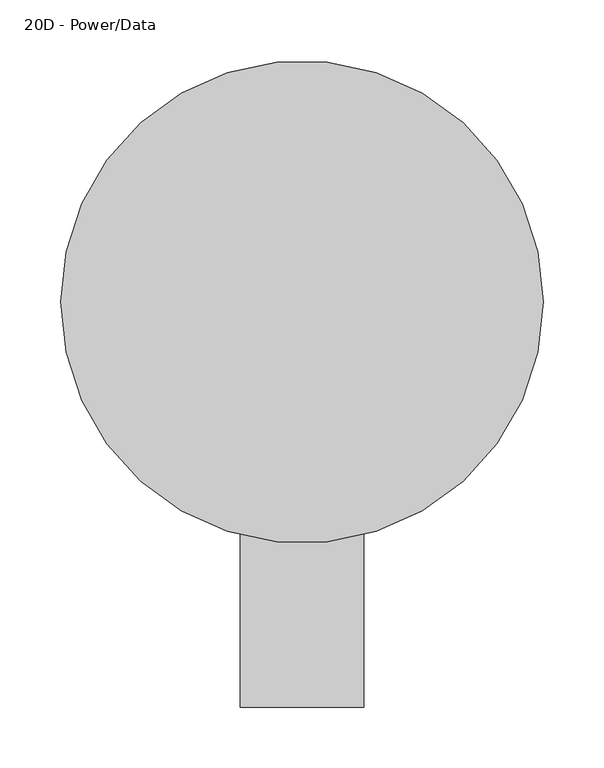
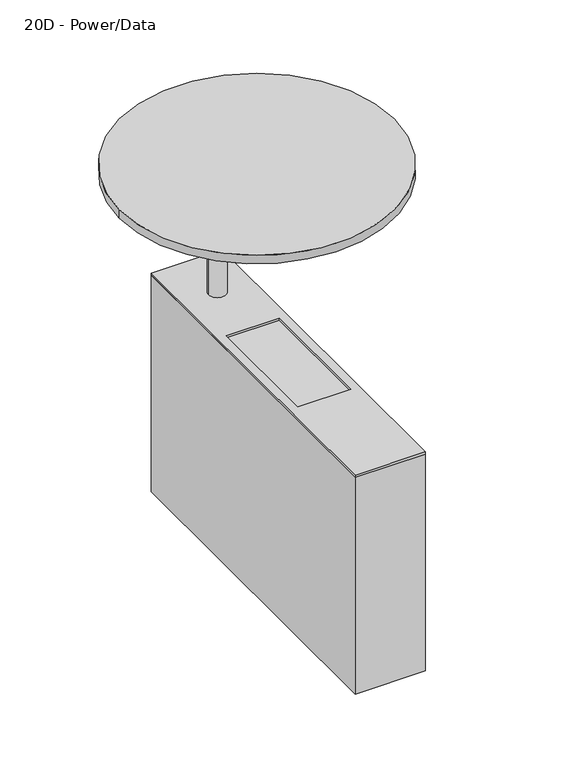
"""IFC4 building model written with IfcOpenShell, lengths in millimetres: furniture geometry, Coalesse_AM_Table_Occasional_Await_Connector : 20D - Power/Data."""

from ifc_helpers import new_model, si_unit, point, frame, frame_2d, origin, place, context, project, spatial, polyline, circle_curve, trimmed, segment, composite_curve, outline, extrude, source, transform, mapped, element, save
from ifc_brep_helpers import plane_surface, cylinder_surface, advanced_brep


def furniture_20d_power_data_efb1d3a4(model_context):
    return source(origin(), model_context, "Body", "SolidModel", [
        extrude(outline(composite_curve([segment(trimmed(circle_curve(frame_2d((-663.917922, 15.7143355)), 198.12), [point((-862.037922, 15.7143355))], [point((-465.797922, 15.7143355))], False, "CARTESIAN"), True, "CONTINUOUS"), segment(trimmed(circle_curve(frame_2d((-663.917922, 15.7143355)), 198.12), [point((-465.797922, 15.7143355))], [point((-862.037922, 15.7143355))], False, "CARTESIAN"), True, "CONTINUOUS")], self_intersect=False)), frame((0.0, 0.0, 631.825), z_axis=(0.0, 0.0, 1.0), x_axis=(1.0, 0.0, 0.0)), (0.0, 0.0, 1.0), 12.7),
        advanced_brep(
        [(-625.817922, 114.6403236, 631.825), (-702.017922, 114.6403236, 631.825), (-663.917922, 114.6403236, 631.825), (-625.817922, 114.6403236, 623.8875), (-702.017922, 114.6403236, 623.8875), (-651.217922, 114.6403236, 623.8875), (-676.617922, 114.6403236, 623.8875), (-651.217922, 114.6403236, 390.525), (-676.617922, 114.6403236, 390.525), (-663.917922, 114.6403236, 390.525)],
        [
            (0, 1, circle_curve(frame((-663.917922, 114.6403236, 631.825), z_axis=(0.0, 0.0, 1.0), x_axis=(-1.0, 0.0, 0.0)), 38.1)),
            (1, 2),
            (2, 0),
            (1, 0, circle_curve(frame((-663.917922, 114.6403236, 631.825), z_axis=(0.0, 0.0, 1.0), x_axis=(-1.0, 0.0, 0.0)), 38.1)),
            (3, 4, circle_curve(frame((-663.917922, 114.6403236, 623.8875), z_axis=(0.0, 0.0, 1.0), x_axis=(-1.0, 0.0, 0.0)), 38.1)),
            (4, 1),
            (0, 3),
            (4, 3, circle_curve(frame((-663.917922, 114.6403236, 623.8875), z_axis=(0.0, 0.0, 1.0), x_axis=(-1.0, 0.0, 0.0)), 38.1)),
            (5, 6, circle_curve(frame((-663.917922, 114.6403236, 623.8875), z_axis=(0.0, 0.0, 1.0), x_axis=(-1.0, 0.0, 0.0)), 12.7)),
            (6, 4),
            (3, 5),
            (6, 5, circle_curve(frame((-663.917922, 114.6403236, 623.8875), z_axis=(0.0, 0.0, 1.0), x_axis=(-1.0, 0.0, 0.0)), 12.7)),
            (7, 8, circle_curve(frame((-663.917922, 114.6403236, 390.525), z_axis=(0.0, 0.0, 1.0), x_axis=(-1.0, 0.0, 0.0)), 12.7)),
            (8, 6),
            (5, 7),
            (8, 7, circle_curve(frame((-663.917922, 114.6403236, 390.525), z_axis=(0.0, 0.0, 1.0), x_axis=(-1.0, 0.0, 0.0)), 12.7)),
            (9, 8),
            (7, 9),
        ],
        [
            plane_surface(frame((-663.917922, 114.6403236, 631.825), z_axis=(0.0, 0.0, 1.0), x_axis=(-1.0, 0.0, 0.0))),
            cylinder_surface(frame((-663.917922, 114.6403236, 631.825), z_axis=(0.0, 0.0, -1.0), x_axis=(-1.0, 0.0, 0.0)), 38.1),
            plane_surface(frame((-663.917922, 114.6403236, 623.8875), z_axis=(0.0, 0.0, -1.0), x_axis=(-1.0, 0.0, 0.0))),
            cylinder_surface(frame((-663.917922, 114.6403236, 631.825), z_axis=(0.0, 0.0, -1.0), x_axis=(-1.0, 0.0, 0.0)), 12.7),
            plane_surface(frame((-663.917922, 114.6403236, 390.525), z_axis=(0.0, 0.0, -1.0), x_axis=(-1.0, 0.0, 0.0))),
        ],
        [
            (0, [[1, 2, 3]]),
            (0, [[4, -3, -2]]),
            (1, [[5, 6, -1, 7]]),
            (1, [[8, -7, -4, -6]]),
            (2, [[9, 10, -5, 11]]),
            (2, [[12, -11, -8, -10]]),
            (3, [[13, 14, -9, 15]]),
            (3, [[16, -15, -12, -14]]),
            (4, [[17, -13, 18]]),
            (4, [[-18, -16, -17]]),
        ],
    ),
        extrude(outline(polyline([(-613.117922, 190.8403236), (-613.117922, -317.1596764), (-714.717922, -317.1596764), (-714.717922, 190.8403236), (-613.117922, 190.8403236)]), holes=[polyline([(-625.817922, 25.7403236), (-702.017922, 25.7403236), (-702.017922, -152.0596764), (-625.817922, -152.0596764), (-625.817922, 25.7403236)])]), frame((0.0, 0.0, 387.35), z_axis=(0.0, 0.0, 1.0), x_axis=(1.0, 0.0, 0.0)), (0.0, 0.0, 1.0), 3.175),
        extrude(outline(polyline([(-613.117922, 190.8403236), (-613.117922, -317.1596764), (-714.717922, -317.1596764), (-714.717922, 190.8403236), (-613.117922, 190.8403236)])), frame((0.0, 0.0, 57.15), z_axis=(0.0, 0.0, 1.0), x_axis=(1.0, 0.0, 0.0)), (0.0, 0.0, 1.0), 330.2),
    ])


if __name__ == "__main__":
    model = new_model("IFC4")
    model_context = context("Model", 3, world=origin())
    ifc_project = project(units=[si_unit("LENGTHUNIT", "METRE", prefix="MILLI")], contexts=[model_context])
    site = spatial("IfcSite", under=ifc_project)
    building = spatial("IfcBuilding", under=site)
    placement = place(None, origin())
    furniture_20d_power_data_shape = furniture_20d_power_data_efb1d3a4(model_context)
    element("IfcFurniture", 1, ObjectType="Coalesse_AM_Table_Occasional_Await_Connector : 20D - Power/Data", at=placement, inside=building, context=model_context, shape_type="MappedRepresentation", body=[
        mapped(furniture_20d_power_data_shape, transform((0.0, 0.0, 0.0), x_axis=(1.0, 0.0, 0.0), y_axis=(0.0, 1.0, 0.0), z_axis=(0.0, 0.0, 1.0))),
    ])
    save(model, "model.ifc")
